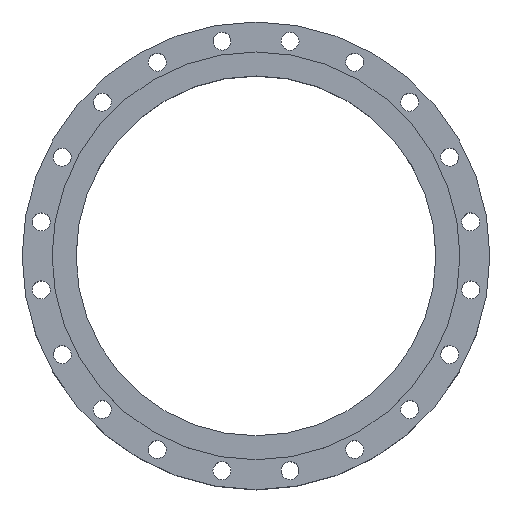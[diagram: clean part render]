
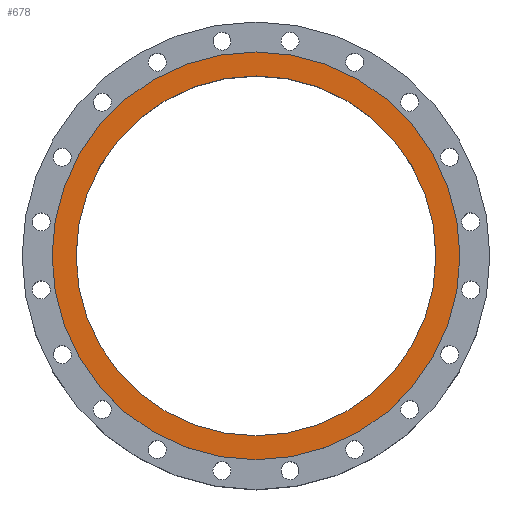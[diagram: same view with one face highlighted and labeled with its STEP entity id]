
A CAD part, top view. The second image highlights one B-rep face of the part: STEP entity #678.
In plain terms, the highlighted planar face has unit normal (0, 0, 1).
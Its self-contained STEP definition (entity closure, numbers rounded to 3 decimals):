
#678=ADVANCED_FACE('',(#1503,#1505),#1507,.T.);
#1503=FACE_BOUND('',#1504,.T.);
#1504=EDGE_LOOP('',(#1836));
#1505=FACE_BOUND('',#1506,.T.);
#1506=EDGE_LOOP('',(#1837));
#1507=PLANE('',#1508);
#1508=AXIS2_PLACEMENT_3D('',#1509,#1510,#1511);
#1509=CARTESIAN_POINT('',(0.,0.,130.));
#1510=DIRECTION('',(0.,0.,1.));
#1511=DIRECTION('',(0.,1.,0.));
#1836=ORIENTED_EDGE('',*,*,#1984,.F.);
#1837=ORIENTED_EDGE('',*,*,#1986,.T.);
#1984=EDGE_CURVE('',#2246,#2246,#2247,.T.);
#1986=EDGE_CURVE('',#2250,#2250,#2251,.T.);
#2246=VERTEX_POINT('',#3921);
#2247=CIRCLE('',#3922,340.);
#2250=VERTEX_POINT('',#3931);
#2251=CIRCLE('',#3932,300.);
#3921=CARTESIAN_POINT('',(0.,340.,130.));
#3922=AXIS2_PLACEMENT_3D('',#3923,#3924,#3925);
#3923=CARTESIAN_POINT('',(0.,0.,130.));
#3924=DIRECTION('',(0.,0.,-1.));
#3925=DIRECTION('',(0.,1.,0.));
#3931=CARTESIAN_POINT('',(0.,300.,130.));
#3932=AXIS2_PLACEMENT_3D('',#3933,#3934,#3935);
#3933=CARTESIAN_POINT('',(0.,0.,130.));
#3934=DIRECTION('',(0.,0.,-1.));
#3935=DIRECTION('',(0.,1.,0.));
